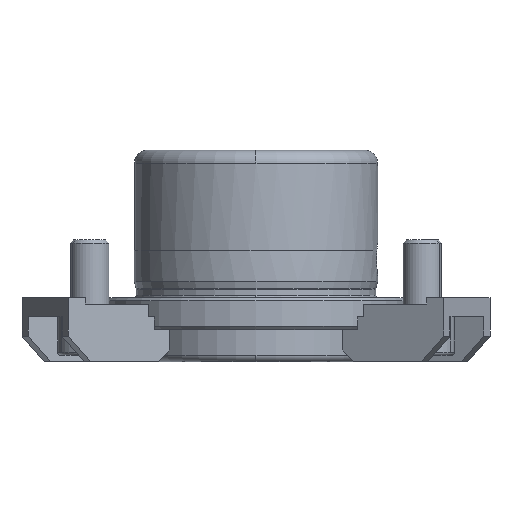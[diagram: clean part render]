
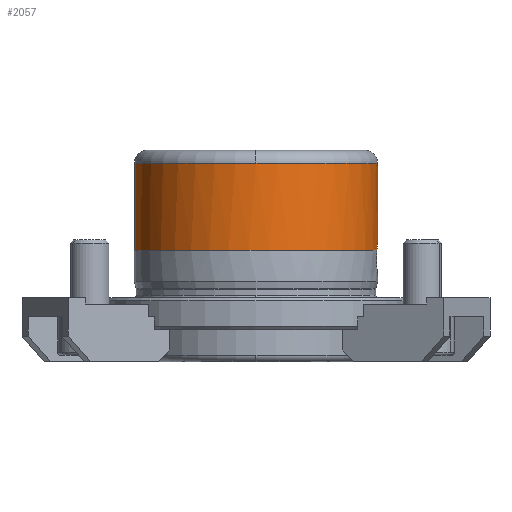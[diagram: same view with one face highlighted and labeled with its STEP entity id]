
A CAD part, front view. The second image highlights one B-rep face of the part: STEP entity #2057.
In plain terms, the highlighted cylindrical face has radius 18.99 mm (diameter 37.98 mm), a partial arc.
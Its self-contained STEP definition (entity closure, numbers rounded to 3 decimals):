
#922=CARTESIAN_POINT('',(18.99,0.,8.6));
#923=VERTEX_POINT('',#922);
#924=CARTESIAN_POINT('',(18.99,0.,21.0));
#925=VERTEX_POINT('',#924);
#926=CARTESIAN_POINT('',(18.99,0.,8.6));
#927=DIRECTION('',(0.0,0.0,1.0));
#928=VECTOR('',#927,12.4);
#929=LINE('',#926,#928);
#930=EDGE_CURVE('',#923,#925,#929,.T.);
#951=CARTESIAN_POINT('',(-18.99,0.,7.4));
#952=VERTEX_POINT('',#951);
#960=CARTESIAN_POINT('',(-18.99,0.,21.0));
#961=VERTEX_POINT('',#960);
#962=CARTESIAN_POINT('',(-18.99,0.,7.4));
#963=DIRECTION('',(0.0,0.0,1.0));
#964=VECTOR('',#963,13.6);
#965=LINE('',#962,#964);
#966=EDGE_CURVE('',#952,#961,#965,.T.);
#1002=CARTESIAN_POINT('',(0.,-18.99,21.0));
#1003=VERTEX_POINT('',#1002);
#1004=CARTESIAN_POINT('',(0.0,0.,21.0));
#1005=DIRECTION('',(0.0,0.0,-1.0));
#1006=DIRECTION('',(1.0,0.0,0.0));
#1007=AXIS2_PLACEMENT_3D('',#1004,#1005,#1006);
#1008=CIRCLE('',#1007,18.99);
#1009=EDGE_CURVE('',#1003,#961,#1008,.T.);
#1516=CARTESIAN_POINT('',(18.863,-2.191,7.4));
#1517=VERTEX_POINT('',#1516);
#1518=CARTESIAN_POINT('',(18.863,-2.191,7.4));
#1519=CARTESIAN_POINT('',(18.864,-2.18,7.417));
#1520=CARTESIAN_POINT('',(18.866,-2.169,7.434));
#1521=CARTESIAN_POINT('',(18.878,-2.062,7.593));
#1522=CARTESIAN_POINT('',(18.89,-1.954,7.723));
#1523=CARTESIAN_POINT('',(18.912,-1.723,7.954));
#1524=CARTESIAN_POINT('',(18.924,-1.593,8.062));
#1525=CARTESIAN_POINT('',(18.945,-1.309,8.253));
#1526=CARTESIAN_POINT('',(18.955,-1.156,8.335));
#1527=CARTESIAN_POINT('',(18.972,-0.835,8.468));
#1528=CARTESIAN_POINT('',(18.979,-0.668,8.518));
#1529=CARTESIAN_POINT('',(18.988,-0.332,8.584));
#1530=CARTESIAN_POINT('',(18.99,-0.163,8.6));
#1531=CARTESIAN_POINT('',(18.99,0.,8.6));
#1532=B_SPLINE_CURVE_WITH_KNOTS('',3,(#1518,#1519,#1520,#1521,#1522,#1523,#1524,#1525,#1526,#1527,#1528,#1529,#1530,#1531),.UNSPECIFIED.,.F.,.U.,(4,2,2,2,2,2,4),(1.413,1.471,1.961,2.452,2.942,3.432,3.923),.UNSPECIFIED.);
#1533=EDGE_CURVE('',#1517,#923,#1532,.T.);
#2027=CARTESIAN_POINT('',(0.0,0.,21.0));
#2028=DIRECTION('',(0.0,0.0,-1.0));
#2029=DIRECTION('',(1.0,0.0,0.0));
#2030=AXIS2_PLACEMENT_3D('',#2027,#2028,#2029);
#2031=CIRCLE('',#2030,18.99);
#2032=EDGE_CURVE('',#925,#1003,#2031,.T.);
#2038=CARTESIAN_POINT('',(0.0,0.,14.2));
#2039=DIRECTION('',(0.0,0.,-1.0));
#2040=DIRECTION('',(1.0,0.0,0.0));
#2041=AXIS2_PLACEMENT_3D('',#2038,#2039,#2040);
#2042=CYLINDRICAL_SURFACE('',#2041,18.99);
#2043=ORIENTED_EDGE('',*,*,#930,.T.);
#2044=ORIENTED_EDGE('',*,*,#2032,.T.);
#2045=ORIENTED_EDGE('',*,*,#1009,.T.);
#2046=ORIENTED_EDGE('',*,*,#966,.F.);
#2047=CARTESIAN_POINT('',(0.0,0.,7.4));
#2048=DIRECTION('',(0.0,0.0,-1.0));
#2049=DIRECTION('',(1.0,0.0,0.0));
#2050=AXIS2_PLACEMENT_3D('',#2047,#2048,#2049);
#2051=CIRCLE('',#2050,18.99);
#2052=EDGE_CURVE('',#1517,#952,#2051,.T.);
#2053=ORIENTED_EDGE('',*,*,#2052,.F.);
#2054=ORIENTED_EDGE('',*,*,#1533,.T.);
#2055=EDGE_LOOP('',(#2043,#2044,#2045,#2046,#2053,#2054));
#2056=FACE_OUTER_BOUND('',#2055,.T.);
#2057=ADVANCED_FACE('',(#2056),#2042,.T.);
